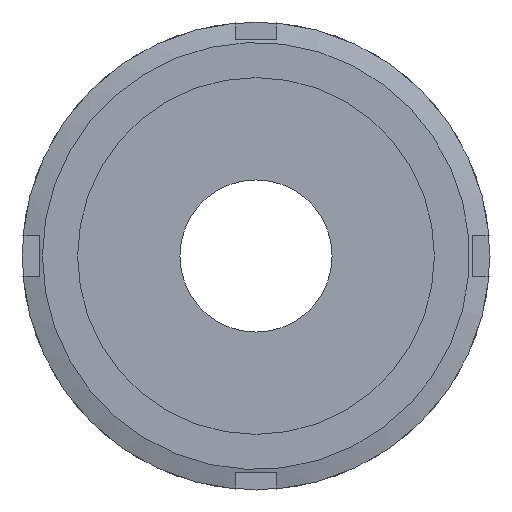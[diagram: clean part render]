
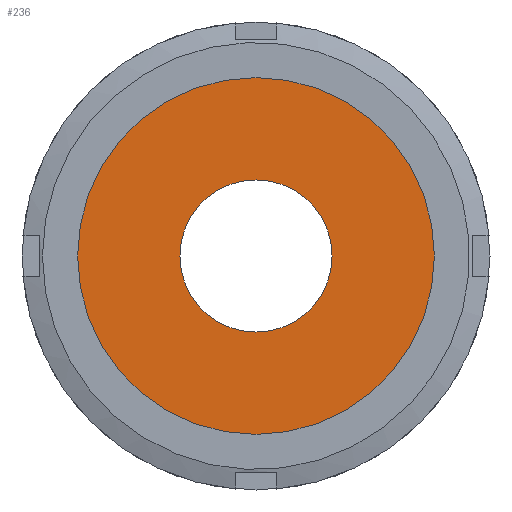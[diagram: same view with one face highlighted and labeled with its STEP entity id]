
A CAD part, left-side view. The second image highlights one B-rep face of the part: STEP entity #236.
In plain terms, the highlighted planar face has unit normal (-1, 0, 0) as drawn and (0, -1, 0) by its records, which use the part's own axes.
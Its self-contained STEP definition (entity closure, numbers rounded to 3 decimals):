
#236 = ADVANCED_FACE( '', ( #342, #343 ), #344, .T. );
#342 = FACE_OUTER_BOUND( '', #497, .T. );
#343 = FACE_BOUND( '', #498, .T. );
#344 = PLANE( '', #499 );
#497 = EDGE_LOOP( '', ( #795 ) );
#498 = EDGE_LOOP( '', ( #796 ) );
#499 = AXIS2_PLACEMENT_3D( '', #797, #798, #799 );
#795 = ORIENTED_EDGE( '', *, *, #1079, .T. );
#796 = ORIENTED_EDGE( '', *, *, #1080, .F. );
#797 = CARTESIAN_POINT( '', ( 13., 0., 0. ) );
#798 = DIRECTION( '', ( 0., -1., 0. ) );
#799 = DIRECTION( '', ( 0., 0., -1. ) );
#1079 = EDGE_CURVE( '', #1252, #1252, #1253, .T. );
#1080 = EDGE_CURVE( '', #1254, #1254, #1255, .T. );
#1252 = VERTEX_POINT( '', #1616 );
#1253 = CIRCLE( '', #1617, 30.5 );
#1254 = VERTEX_POINT( '', #1618 );
#1255 = CIRCLE( '', #1619, 13. );
#1616 = CARTESIAN_POINT( '', ( 0., 0., -30.5 ) );
#1617 = AXIS2_PLACEMENT_3D( '', #1863, #1864, #1865 );
#1618 = CARTESIAN_POINT( '', ( 0., 0., -13. ) );
#1619 = AXIS2_PLACEMENT_3D( '', #1866, #1867, #1868 );
#1863 = CARTESIAN_POINT( '', ( 0., 0., 0. ) );
#1864 = DIRECTION( '', ( 0., -1., 0. ) );
#1865 = DIRECTION( '', ( 0., 0., -1. ) );
#1866 = CARTESIAN_POINT( '', ( 0., 0., 0. ) );
#1867 = DIRECTION( '', ( 0., -1., 0. ) );
#1868 = DIRECTION( '', ( 0., 0., -1. ) );
